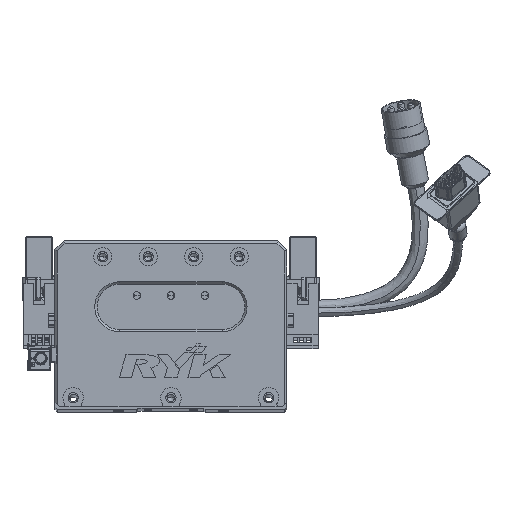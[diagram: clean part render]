
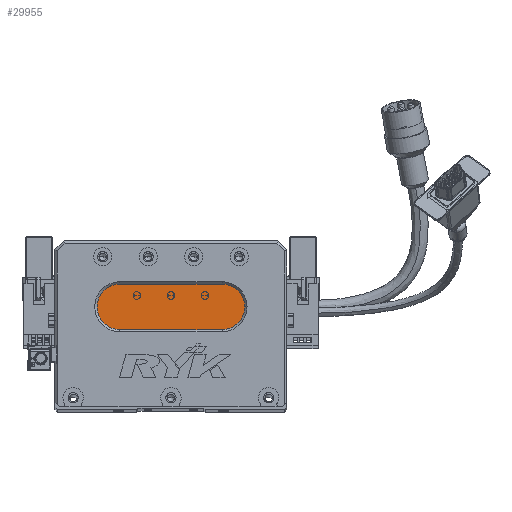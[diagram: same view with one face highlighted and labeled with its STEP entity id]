
A CAD part, top view. The second image highlights one B-rep face of the part: STEP entity #29955.
In plain terms, the highlighted planar face has unit normal (0, 0, 1) as drawn and (0, 0, -1) by its records, which use the part's own axes.
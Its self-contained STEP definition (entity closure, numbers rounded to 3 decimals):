
#1517 = DIRECTION ( 'NONE',  ( -1., 0., 0. ) ) ;
#2604 = DIRECTION ( 'NONE',  ( -1., 0., 0. ) ) ;
#6877 = DIRECTION ( 'NONE',  ( -1., 0., 0. ) ) ;
#6929 = CARTESIAN_POINT ( 'NONE',  ( 18.5, 44., 13. ) ) ;
#7494 = EDGE_CURVE ( 'NONE', #55172, #40543, #52684, .T. ) ;
#10698 = CARTESIAN_POINT ( 'NONE',  ( 28.5, 34., 13. ) ) ;
#11764 = ORIENTED_EDGE ( 'NONE', *, *, #53580, .T. ) ;
#11828 = CARTESIAN_POINT ( 'NONE',  ( 73.5, 44., 13. ) ) ;
#12378 = CARTESIAN_POINT ( 'NONE',  ( 28.5, 44., 13. ) ) ;
#12905 = DIRECTION ( 'NONE',  ( 0., 0., -1. ) ) ;
#16099 = CARTESIAN_POINT ( 'NONE',  ( 28.5, 44., 13. ) ) ;
#16178 = CARTESIAN_POINT ( 'NONE',  ( 73.5, 34., 13. ) ) ;
#17386 = CARTESIAN_POINT ( 'NONE',  ( 73.5, 54., 13. ) ) ;
#21340 = AXIS2_PLACEMENT_3D ( 'NONE', #11828, #46077, #55921 ) ;
#23624 = LINE ( 'NONE', #17386, #40055 ) ;
#25136 = FACE_OUTER_BOUND ( 'NONE', #39058, .T. ) ;
#26454 = VERTEX_POINT ( 'NONE', #42499 ) ;
#27460 = DIRECTION ( 'NONE',  ( 0., 0., -1. ) ) ;
#27729 = ORIENTED_EDGE ( 'NONE', *, *, #28195, .T. ) ;
#28098 = EDGE_CURVE ( 'NONE', #64328, #49082, #37053, .T. ) ;
#28195 = EDGE_CURVE ( 'NONE', #49082, #26454, #28472, .T. ) ;
#28472 = CIRCLE ( 'NONE', #44492, 10. ) ;
#29391 = AXIS2_PLACEMENT_3D ( 'NONE', #16099, #51018, #1517 ) ;
#29955 = ADVANCED_FACE ( 'NONE', ( #25136 ), #33213, .T. ) ;
#30804 = CARTESIAN_POINT ( 'NONE',  ( 73.5, 54., 13. ) ) ;
#33213 = PLANE ( 'NONE',  #52480 ) ;
#37053 = CIRCLE ( 'NONE', #29391, 10. ) ;
#39058 = EDGE_LOOP ( 'NONE', ( #59866, #11764, #48815, #27729, #39990 ) ) ;
#39990 = ORIENTED_EDGE ( 'NONE', *, *, #52959, .T. ) ;
#40055 = VECTOR ( 'NONE', #52950, 1000. ) ;
#40543 = VERTEX_POINT ( 'NONE', #16178 ) ;
#42195 = CARTESIAN_POINT ( 'NONE',  ( 73.5, 34., 13. ) ) ;
#42499 = CARTESIAN_POINT ( 'NONE',  ( 28.5, 54., 13. ) ) ;
#42613 = DIRECTION ( 'NONE',  ( -1., 0., 0. ) ) ;
#44492 = AXIS2_PLACEMENT_3D ( 'NONE', #12378, #27460, #2604 ) ;
#46077 = DIRECTION ( 'NONE',  ( 0., 0., -1. ) ) ;
#46221 = LINE ( 'NONE', #42195, #57934 ) ;
#48815 = ORIENTED_EDGE ( 'NONE', *, *, #28098, .T. ) ;
#49082 = VERTEX_POINT ( 'NONE', #6929 ) ;
#51018 = DIRECTION ( 'NONE',  ( 0., 0., -1. ) ) ;
#52480 = AXIS2_PLACEMENT_3D ( 'NONE', #53069, #12905, #42613 ) ;
#52684 = CIRCLE ( 'NONE', #21340, 10. ) ;
#52950 = DIRECTION ( 'NONE',  ( 1., 0., 0. ) ) ;
#52959 = EDGE_CURVE ( 'NONE', #26454, #55172, #23624, .T. ) ;
#53069 = CARTESIAN_POINT ( 'NONE',  ( 73.5, 44., 13. ) ) ;
#53580 = EDGE_CURVE ( 'NONE', #40543, #64328, #46221, .T. ) ;
#55172 = VERTEX_POINT ( 'NONE', #30804 ) ;
#55921 = DIRECTION ( 'NONE',  ( -1., 0., 0. ) ) ;
#57934 = VECTOR ( 'NONE', #6877, 1000. ) ;
#59866 = ORIENTED_EDGE ( 'NONE', *, *, #7494, .T. ) ;
#64328 = VERTEX_POINT ( 'NONE', #10698 ) ;
